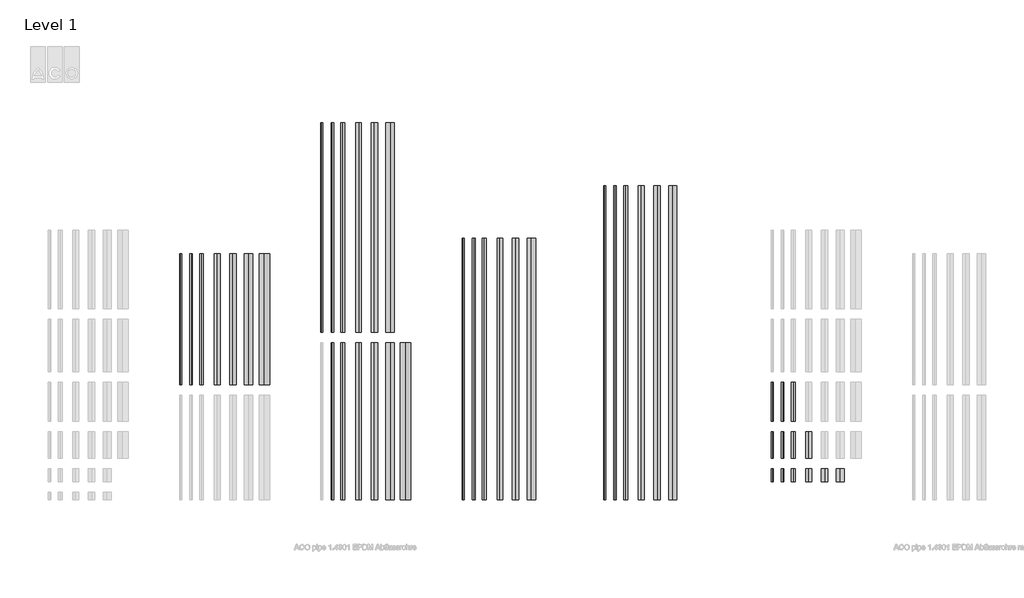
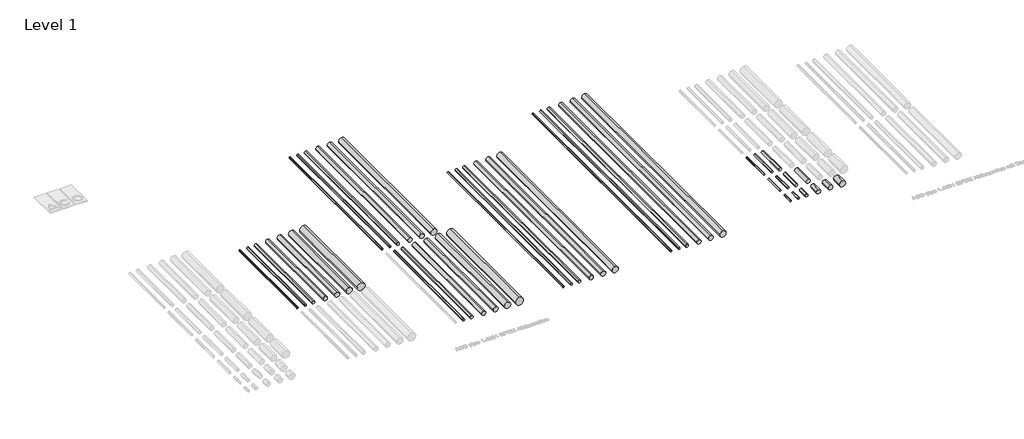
# One storey, part 7 of 13: 44 pipe segments.
"""IFC4 building model written with IfcOpenShell, lengths in millimetres."""

from ifc_helpers import new_model, si_unit, point, frame, frame_2d, origin, place, context, project, spatial, circle_curve, trimmed, segment, composite_curve, outline, extrude, element, save

model = new_model("IFC4")

# Units and contexts
model_context = context("Model", 3, world=origin())
ifc_project = project(units=[si_unit("LENGTHUNIT", "METRE", prefix="MILLI")], contexts=[model_context])

# Site, building, storey
site = spatial("IfcSite", under=ifc_project)
building = spatial("IfcBuilding", under=site)
storey = spatial("IfcBuildingStorey", under=building, Name="Level 1", Elevation=0.0)

# Pipe segments
placement = place(None, origin())
element("IfcPipeSegment", 1, ObjectType="ACO pipe 1.4301 OD (complex)", at=placement, inside=storey, context=model_context, shape_type="SweptSolid", body=[
    extrude(outline(composite_curve([segment(trimmed(circle_curve(frame_2d((0.0, 1021.7461061)), 20.0), [point((0.0, 1041.7461061))], [point((20.0, 1021.7461061))], False, "CARTESIAN"), True, "CONTINUOUS"), segment(trimmed(circle_curve(frame_2d((0.0, 1021.7461061)), 20.0), [point((20.0, 1021.7461061))], [point((0.0, 1001.7461061))], False, "CARTESIAN"), True, "CONTINUOUS"), segment(trimmed(circle_curve(frame_2d((0.0, 1021.7461061)), 20.0), [point((0.0, 1001.7461061))], [point((-20.0, 1021.7461061))], False, "CARTESIAN"), True, "CONTINUOUS"), segment(trimmed(circle_curve(frame_2d((0.0, 1021.7461061)), 20.0), [point((-20.0, 1021.7461061))], [point((0.0, 1041.7461061))], False, "CARTESIAN"), True, "CONTINUOUS")], self_intersect=False)), frame((0.0, 2180.7885647, 0.0), z_axis=(0.0, 1.0, 0.0), x_axis=(0.0, 0.0, 1.0)), (0.0, 0.0, 1.0), 2500.0),
])
element("IfcPipeSegment", 2, ObjectType="ACO pipe 1.4301 OD (complex)", at=placement, inside=storey, context=model_context, shape_type="SweptSolid", body=[
    extrude(outline(composite_curve([segment(trimmed(circle_curve(frame_2d((0.0, 1221.7461061)), 25.0), [point((0.0, 1246.7461061))], [point((25.0, 1221.7461061))], False, "CARTESIAN"), True, "CONTINUOUS"), segment(trimmed(circle_curve(frame_2d((0.0, 1221.7461061)), 25.0), [point((25.0, 1221.7461061))], [point((0.0, 1196.7461061))], False, "CARTESIAN"), True, "CONTINUOUS"), segment(trimmed(circle_curve(frame_2d((0.0, 1221.7461061)), 25.0), [point((0.0, 1196.7461061))], [point((-25.0, 1221.7461061))], False, "CARTESIAN"), True, "CONTINUOUS"), segment(trimmed(circle_curve(frame_2d((0.0, 1221.7461061)), 25.0), [point((-25.0, 1221.7461061))], [point((0.0, 1246.7461061))], False, "CARTESIAN"), True, "CONTINUOUS")], self_intersect=False)), frame((0.0, 2180.7885647, 0.0), z_axis=(0.0, 1.0, 0.0), x_axis=(0.0, 0.0, 1.0)), (0.0, 0.0, 1.0), 2500.0),
])
element("IfcPipeSegment", 3, ObjectType="ACO pipe 1.4301 OD (complex)", at=placement, inside=storey, context=model_context, shape_type="SweptSolid", body=[
    extrude(outline(composite_curve([segment(trimmed(circle_curve(frame_2d((0.0, 1421.7461061)), 37.5), [point((0.0, 1459.2461061))], [point((37.5, 1421.7461061))], False, "CARTESIAN"), True, "CONTINUOUS"), segment(trimmed(circle_curve(frame_2d((0.0, 1421.7461061)), 37.5), [point((37.5, 1421.7461061))], [point((0.0, 1384.2461061))], False, "CARTESIAN"), True, "CONTINUOUS"), segment(trimmed(circle_curve(frame_2d((0.0, 1421.7461061)), 37.5), [point((0.0, 1384.2461061))], [point((-37.5, 1421.7461061))], False, "CARTESIAN"), True, "CONTINUOUS"), segment(trimmed(circle_curve(frame_2d((0.0, 1421.7461061)), 37.5), [point((-37.5, 1421.7461061))], [point((0.0, 1459.2461061))], False, "CARTESIAN"), True, "CONTINUOUS")], self_intersect=False)), frame((0.0, 2180.7885647, 0.0), z_axis=(0.0, 1.0, 0.0), x_axis=(0.0, 0.0, 1.0)), (0.0, 0.0, 1.0), 2500.0),
])
element("IfcPipeSegment", 4, ObjectType="ACO pipe 1.4301 OD (complex)", at=placement, inside=storey, context=model_context, shape_type="SweptSolid", body=[
    extrude(outline(composite_curve([segment(trimmed(circle_curve(frame_2d((0.0, 1721.7461061)), 55.0), [point((0.0, 1776.7461061))], [point((55.0, 1721.7461061))], False, "CARTESIAN"), True, "CONTINUOUS"), segment(trimmed(circle_curve(frame_2d((0.0, 1721.7461061)), 55.0), [point((55.0, 1721.7461061))], [point((0.0, 1666.7461061))], False, "CARTESIAN"), True, "CONTINUOUS"), segment(trimmed(circle_curve(frame_2d((0.0, 1721.7461061)), 55.0), [point((0.0, 1666.7461061))], [point((-55.0, 1721.7461061))], False, "CARTESIAN"), True, "CONTINUOUS"), segment(trimmed(circle_curve(frame_2d((0.0, 1721.7461061)), 55.0), [point((-55.0, 1721.7461061))], [point((0.0, 1776.7461061))], False, "CARTESIAN"), True, "CONTINUOUS")], self_intersect=False)), frame((0.0, 2180.7885647, 0.0), z_axis=(0.0, 1.0, 0.0), x_axis=(0.0, 0.0, 1.0)), (0.0, 0.0, 1.0), 2500.0),
])
element("IfcPipeSegment", 5, ObjectType="ACO pipe 1.4301 OD (complex)", at=placement, inside=storey, context=model_context, shape_type="SweptSolid", body=[
    extrude(outline(composite_curve([segment(trimmed(circle_curve(frame_2d((0.0, 2021.7461061)), 62.5), [point((0.0, 2084.2461061))], [point((62.5, 2021.7461061))], False, "CARTESIAN"), True, "CONTINUOUS"), segment(trimmed(circle_curve(frame_2d((0.0, 2021.7461061)), 62.5), [point((62.5, 2021.7461061))], [point((0.0, 1959.2461061))], False, "CARTESIAN"), True, "CONTINUOUS"), segment(trimmed(circle_curve(frame_2d((0.0, 2021.7461061)), 62.5), [point((0.0, 1959.2461061))], [point((-62.5, 2021.7461061))], False, "CARTESIAN"), True, "CONTINUOUS"), segment(trimmed(circle_curve(frame_2d((0.0, 2021.7461061)), 62.5), [point((-62.5, 2021.7461061))], [point((0.0, 2084.2461061))], False, "CARTESIAN"), True, "CONTINUOUS")], self_intersect=False)), frame((0.0, 2180.7885647, 0.0), z_axis=(0.0, 1.0, 0.0), x_axis=(0.0, 0.0, 1.0)), (0.0, 0.0, 1.0), 2500.0),
])
element("IfcPipeSegment", 6, ObjectType="ACO pipe 1.4301 OD (complex)", at=placement, inside=storey, context=model_context, shape_type="SweptSolid", body=[
    extrude(outline(composite_curve([segment(trimmed(circle_curve(frame_2d((0.0, 2321.7461061)), 80.0), [point((0.0, 2401.7461061))], [point((80.0, 2321.7461061))], False, "CARTESIAN"), True, "CONTINUOUS"), segment(trimmed(circle_curve(frame_2d((0.0, 2321.7461061)), 80.0), [point((80.0, 2321.7461061))], [point((0.0, 2241.7461061))], False, "CARTESIAN"), True, "CONTINUOUS"), segment(trimmed(circle_curve(frame_2d((0.0, 2321.7461061)), 80.0), [point((0.0, 2241.7461061))], [point((-80.0, 2321.7461061))], False, "CARTESIAN"), True, "CONTINUOUS"), segment(trimmed(circle_curve(frame_2d((0.0, 2321.7461061)), 80.0), [point((-80.0, 2321.7461061))], [point((0.0, 2401.7461061))], False, "CARTESIAN"), True, "CONTINUOUS")], self_intersect=False)), frame((0.0, 2180.7885647, 0.0), z_axis=(0.0, 1.0, 0.0), x_axis=(0.0, 0.0, 1.0)), (0.0, 0.0, 1.0), 2500.0),
])
element("IfcPipeSegment", 7, ObjectType="ACO pipe 1.4301 OD (complex)", at=placement, inside=storey, context=model_context, shape_type="SweptSolid", body=[
    extrude(outline(composite_curve([segment(trimmed(circle_curve(frame_2d((0.0, 2621.7461061)), 100.0), [point((0.0, 2721.7461061))], [point((100.0, 2621.7461061))], False, "CARTESIAN"), True, "CONTINUOUS"), segment(trimmed(circle_curve(frame_2d((0.0, 2621.7461061)), 100.0), [point((100.0, 2621.7461061))], [point((0.0, 2521.7461061))], False, "CARTESIAN"), True, "CONTINUOUS"), segment(trimmed(circle_curve(frame_2d((0.0, 2621.7461061)), 100.0), [point((0.0, 2521.7461061))], [point((-100.0, 2621.7461061))], False, "CARTESIAN"), True, "CONTINUOUS"), segment(trimmed(circle_curve(frame_2d((0.0, 2621.7461061)), 100.0), [point((-100.0, 2621.7461061))], [point((0.0, 2721.7461061))], False, "CARTESIAN"), True, "CONTINUOUS")], self_intersect=False)), frame((0.0, 2180.7885647, 0.0), z_axis=(0.0, 1.0, 0.0), x_axis=(0.0, 0.0, 1.0)), (0.0, 0.0, 1.0), 2500.0),
])
element("IfcPipeSegment", 8, ObjectType="ACO pipe 1.4301 OD (complex)", at=placement, inside=storey, context=model_context, shape_type="SweptSolid", body=[
    extrude(outline(composite_curve([segment(trimmed(circle_curve(frame_2d((0.0, 3921.7461061)), 25.0), [point((0.0, 3946.7461061))], [point((25.0, 3921.7461061))], False, "CARTESIAN"), True, "CONTINUOUS"), segment(trimmed(circle_curve(frame_2d((0.0, 3921.7461061)), 25.0), [point((25.0, 3921.7461061))], [point((0.0, 3896.7461061))], False, "CARTESIAN"), True, "CONTINUOUS"), segment(trimmed(circle_curve(frame_2d((0.0, 3921.7461061)), 25.0), [point((0.0, 3896.7461061))], [point((-25.0, 3921.7461061))], False, "CARTESIAN"), True, "CONTINUOUS"), segment(trimmed(circle_curve(frame_2d((0.0, 3921.7461061)), 25.0), [point((-25.0, 3921.7461061))], [point((0.0, 3946.7461061))], False, "CARTESIAN"), True, "CONTINUOUS")], self_intersect=False)), frame((0.0, -19.2114353, 0.0), z_axis=(0.0, 1.0, 0.0), x_axis=(0.0, 0.0, 1.0)), (0.0, 0.0, 1.0), 3000.0),
])
element("IfcPipeSegment", 9, ObjectType="ACO pipe 1.4301 OD (complex)", at=placement, inside=storey, context=model_context, shape_type="SweptSolid", body=[
    extrude(outline(composite_curve([segment(trimmed(circle_curve(frame_2d((0.0, 4121.7461061)), 37.5), [point((0.0, 4159.2461061))], [point((37.5, 4121.7461061))], False, "CARTESIAN"), True, "CONTINUOUS"), segment(trimmed(circle_curve(frame_2d((0.0, 4121.7461061)), 37.5), [point((37.5, 4121.7461061))], [point((0.0, 4084.2461061))], False, "CARTESIAN"), True, "CONTINUOUS"), segment(trimmed(circle_curve(frame_2d((0.0, 4121.7461061)), 37.5), [point((0.0, 4084.2461061))], [point((-37.5, 4121.7461061))], False, "CARTESIAN"), True, "CONTINUOUS"), segment(trimmed(circle_curve(frame_2d((0.0, 4121.7461061)), 37.5), [point((-37.5, 4121.7461061))], [point((0.0, 4159.2461061))], False, "CARTESIAN"), True, "CONTINUOUS")], self_intersect=False)), frame((0.0, -19.2114353, 0.0), z_axis=(0.0, 1.0, 0.0), x_axis=(0.0, 0.0, 1.0)), (0.0, 0.0, 1.0), 3000.0),
])
element("IfcPipeSegment", 10, ObjectType="ACO pipe 1.4301 OD (complex)", at=placement, inside=storey, context=model_context, shape_type="SweptSolid", body=[
    extrude(outline(composite_curve([segment(trimmed(circle_curve(frame_2d((0.0, 4421.7461061)), 55.0), [point((0.0, 4476.7461061))], [point((55.0, 4421.7461061))], False, "CARTESIAN"), True, "CONTINUOUS"), segment(trimmed(circle_curve(frame_2d((0.0, 4421.7461061)), 55.0), [point((55.0, 4421.7461061))], [point((0.0, 4366.7461061))], False, "CARTESIAN"), True, "CONTINUOUS"), segment(trimmed(circle_curve(frame_2d((0.0, 4421.7461061)), 55.0), [point((0.0, 4366.7461061))], [point((-55.0, 4421.7461061))], False, "CARTESIAN"), True, "CONTINUOUS"), segment(trimmed(circle_curve(frame_2d((0.0, 4421.7461061)), 55.0), [point((-55.0, 4421.7461061))], [point((0.0, 4476.7461061))], False, "CARTESIAN"), True, "CONTINUOUS")], self_intersect=False)), frame((0.0, -19.2114353, 0.0), z_axis=(0.0, 1.0, 0.0), x_axis=(0.0, 0.0, 1.0)), (0.0, 0.0, 1.0), 3000.0),
])
element("IfcPipeSegment", 11, ObjectType="ACO pipe 1.4301 OD (complex)", at=placement, inside=storey, context=model_context, shape_type="SweptSolid", body=[
    extrude(outline(composite_curve([segment(trimmed(circle_curve(frame_2d((0.0, 4721.7461061)), 62.5), [point((0.0, 4784.2461061))], [point((62.5, 4721.7461061))], False, "CARTESIAN"), True, "CONTINUOUS"), segment(trimmed(circle_curve(frame_2d((0.0, 4721.7461061)), 62.5), [point((62.5, 4721.7461061))], [point((0.0, 4659.2461061))], False, "CARTESIAN"), True, "CONTINUOUS"), segment(trimmed(circle_curve(frame_2d((0.0, 4721.7461061)), 62.5), [point((0.0, 4659.2461061))], [point((-62.5, 4721.7461061))], False, "CARTESIAN"), True, "CONTINUOUS"), segment(trimmed(circle_curve(frame_2d((0.0, 4721.7461061)), 62.5), [point((-62.5, 4721.7461061))], [point((0.0, 4784.2461061))], False, "CARTESIAN"), True, "CONTINUOUS")], self_intersect=False)), frame((0.0, -19.2114353, 0.0), z_axis=(0.0, 1.0, 0.0), x_axis=(0.0, 0.0, 1.0)), (0.0, 0.0, 1.0), 3000.0),
])
element("IfcPipeSegment", 12, ObjectType="ACO pipe 1.4301 OD (complex)", at=placement, inside=storey, context=model_context, shape_type="SweptSolid", body=[
    extrude(outline(composite_curve([segment(trimmed(circle_curve(frame_2d((0.0, 5021.7461061)), 80.0), [point((0.0, 5101.7461061))], [point((80.0, 5021.7461061))], False, "CARTESIAN"), True, "CONTINUOUS"), segment(trimmed(circle_curve(frame_2d((0.0, 5021.7461061)), 80.0), [point((80.0, 5021.7461061))], [point((0.0, 4941.7461061))], False, "CARTESIAN"), True, "CONTINUOUS"), segment(trimmed(circle_curve(frame_2d((0.0, 5021.7461061)), 80.0), [point((0.0, 4941.7461061))], [point((-80.0, 5021.7461061))], False, "CARTESIAN"), True, "CONTINUOUS"), segment(trimmed(circle_curve(frame_2d((0.0, 5021.7461061)), 80.0), [point((-80.0, 5021.7461061))], [point((0.0, 5101.7461061))], False, "CARTESIAN"), True, "CONTINUOUS")], self_intersect=False)), frame((0.0, -19.2114353, 0.0), z_axis=(0.0, 1.0, 0.0), x_axis=(0.0, 0.0, 1.0)), (0.0, 0.0, 1.0), 3000.0),
])
element("IfcPipeSegment", 13, ObjectType="ACO pipe 1.4301 OD (complex)", at=placement, inside=storey, context=model_context, shape_type="SweptSolid", body=[
    extrude(outline(composite_curve([segment(trimmed(circle_curve(frame_2d((0.0, 5321.7461061)), 100.0), [point((0.0, 5421.7461061))], [point((100.0, 5321.7461061))], False, "CARTESIAN"), True, "CONTINUOUS"), segment(trimmed(circle_curve(frame_2d((0.0, 5321.7461061)), 100.0), [point((100.0, 5321.7461061))], [point((0.0, 5221.7461061))], False, "CARTESIAN"), True, "CONTINUOUS"), segment(trimmed(circle_curve(frame_2d((0.0, 5321.7461061)), 100.0), [point((0.0, 5221.7461061))], [point((-100.0, 5321.7461061))], False, "CARTESIAN"), True, "CONTINUOUS"), segment(trimmed(circle_curve(frame_2d((0.0, 5321.7461061)), 100.0), [point((-100.0, 5321.7461061))], [point((0.0, 5421.7461061))], False, "CARTESIAN"), True, "CONTINUOUS")], self_intersect=False)), frame((0.0, -19.2114353, 0.0), z_axis=(0.0, 1.0, 0.0), x_axis=(0.0, 0.0, 1.0)), (0.0, 0.0, 1.0), 3000.0),
])
element("IfcPipeSegment", 14, ObjectType="ACO pipe 1.4301 OD (complex)", at=placement, inside=storey, context=model_context, shape_type="SweptSolid", body=[
    extrude(outline(composite_curve([segment(trimmed(circle_curve(frame_2d((0.0, 3721.7461061)), 20.0), [point((0.0, 3741.7461061))], [point((20.0, 3721.7461061))], False, "CARTESIAN"), True, "CONTINUOUS"), segment(trimmed(circle_curve(frame_2d((0.0, 3721.7461061)), 20.0), [point((20.0, 3721.7461061))], [point((0.0, 3701.7461061))], False, "CARTESIAN"), True, "CONTINUOUS"), segment(trimmed(circle_curve(frame_2d((0.0, 3721.7461061)), 20.0), [point((0.0, 3701.7461061))], [point((-20.0, 3721.7461061))], False, "CARTESIAN"), True, "CONTINUOUS"), segment(trimmed(circle_curve(frame_2d((0.0, 3721.7461061)), 20.0), [point((-20.0, 3721.7461061))], [point((0.0, 3741.7461061))], False, "CARTESIAN"), True, "CONTINUOUS")], self_intersect=False)), frame((0.0, 3180.7885647, 0.0), z_axis=(0.0, 1.0, 0.0), x_axis=(0.0, 0.0, 1.0)), (0.0, 0.0, 1.0), 4000.0),
])
element("IfcPipeSegment", 15, ObjectType="ACO pipe 1.4301 OD (complex)", at=placement, inside=storey, context=model_context, shape_type="SweptSolid", body=[
    extrude(outline(composite_curve([segment(trimmed(circle_curve(frame_2d((0.0, 3921.7461061)), 25.0), [point((0.0, 3946.7461061))], [point((25.0, 3921.7461061))], False, "CARTESIAN"), True, "CONTINUOUS"), segment(trimmed(circle_curve(frame_2d((0.0, 3921.7461061)), 25.0), [point((25.0, 3921.7461061))], [point((0.0, 3896.7461061))], False, "CARTESIAN"), True, "CONTINUOUS"), segment(trimmed(circle_curve(frame_2d((0.0, 3921.7461061)), 25.0), [point((0.0, 3896.7461061))], [point((-25.0, 3921.7461061))], False, "CARTESIAN"), True, "CONTINUOUS"), segment(trimmed(circle_curve(frame_2d((0.0, 3921.7461061)), 25.0), [point((-25.0, 3921.7461061))], [point((0.0, 3946.7461061))], False, "CARTESIAN"), True, "CONTINUOUS")], self_intersect=False)), frame((0.0, 3180.7885647, 0.0), z_axis=(0.0, 1.0, 0.0), x_axis=(0.0, 0.0, 1.0)), (0.0, 0.0, 1.0), 4000.0),
])
element("IfcPipeSegment", 16, ObjectType="ACO pipe 1.4301 OD (complex)", at=placement, inside=storey, context=model_context, shape_type="SweptSolid", body=[
    extrude(outline(composite_curve([segment(trimmed(circle_curve(frame_2d((0.0, 4121.7461061)), 37.5), [point((0.0, 4159.2461061))], [point((37.5, 4121.7461061))], False, "CARTESIAN"), True, "CONTINUOUS"), segment(trimmed(circle_curve(frame_2d((0.0, 4121.7461061)), 37.5), [point((37.5, 4121.7461061))], [point((0.0, 4084.2461061))], False, "CARTESIAN"), True, "CONTINUOUS"), segment(trimmed(circle_curve(frame_2d((0.0, 4121.7461061)), 37.5), [point((0.0, 4084.2461061))], [point((-37.5, 4121.7461061))], False, "CARTESIAN"), True, "CONTINUOUS"), segment(trimmed(circle_curve(frame_2d((0.0, 4121.7461061)), 37.5), [point((-37.5, 4121.7461061))], [point((0.0, 4159.2461061))], False, "CARTESIAN"), True, "CONTINUOUS")], self_intersect=False)), frame((0.0, 3180.7885647, 0.0), z_axis=(0.0, 1.0, 0.0), x_axis=(0.0, 0.0, 1.0)), (0.0, 0.0, 1.0), 4000.0),
])
element("IfcPipeSegment", 17, ObjectType="ACO pipe 1.4301 OD (complex)", at=placement, inside=storey, context=model_context, shape_type="SweptSolid", body=[
    extrude(outline(composite_curve([segment(trimmed(circle_curve(frame_2d((0.0, 4421.7461061)), 55.0), [point((0.0, 4476.7461061))], [point((55.0, 4421.7461061))], False, "CARTESIAN"), True, "CONTINUOUS"), segment(trimmed(circle_curve(frame_2d((0.0, 4421.7461061)), 55.0), [point((55.0, 4421.7461061))], [point((0.0, 4366.7461061))], False, "CARTESIAN"), True, "CONTINUOUS"), segment(trimmed(circle_curve(frame_2d((0.0, 4421.7461061)), 55.0), [point((0.0, 4366.7461061))], [point((-55.0, 4421.7461061))], False, "CARTESIAN"), True, "CONTINUOUS"), segment(trimmed(circle_curve(frame_2d((0.0, 4421.7461061)), 55.0), [point((-55.0, 4421.7461061))], [point((0.0, 4476.7461061))], False, "CARTESIAN"), True, "CONTINUOUS")], self_intersect=False)), frame((0.0, 3180.7885647, 0.0), z_axis=(0.0, 1.0, 0.0), x_axis=(0.0, 0.0, 1.0)), (0.0, 0.0, 1.0), 4000.0),
])
element("IfcPipeSegment", 18, ObjectType="ACO pipe 1.4301 OD (complex)", at=placement, inside=storey, context=model_context, shape_type="SweptSolid", body=[
    extrude(outline(composite_curve([segment(trimmed(circle_curve(frame_2d((0.0, 4721.7461061)), 62.5), [point((0.0, 4784.2461061))], [point((62.5, 4721.7461061))], False, "CARTESIAN"), True, "CONTINUOUS"), segment(trimmed(circle_curve(frame_2d((0.0, 4721.7461061)), 62.5), [point((62.5, 4721.7461061))], [point((0.0, 4659.2461061))], False, "CARTESIAN"), True, "CONTINUOUS"), segment(trimmed(circle_curve(frame_2d((0.0, 4721.7461061)), 62.5), [point((0.0, 4659.2461061))], [point((-62.5, 4721.7461061))], False, "CARTESIAN"), True, "CONTINUOUS"), segment(trimmed(circle_curve(frame_2d((0.0, 4721.7461061)), 62.5), [point((-62.5, 4721.7461061))], [point((0.0, 4784.2461061))], False, "CARTESIAN"), True, "CONTINUOUS")], self_intersect=False)), frame((0.0, 3180.7885647, 0.0), z_axis=(0.0, 1.0, 0.0), x_axis=(0.0, 0.0, 1.0)), (0.0, 0.0, 1.0), 4000.0),
])
element("IfcPipeSegment", 19, ObjectType="ACO pipe 1.4301 OD (complex)", at=placement, inside=storey, context=model_context, shape_type="SweptSolid", body=[
    extrude(outline(composite_curve([segment(trimmed(circle_curve(frame_2d((0.0, 5021.7461061)), 80.0), [point((0.0, 5101.7461061))], [point((80.0, 5021.7461061))], False, "CARTESIAN"), True, "CONTINUOUS"), segment(trimmed(circle_curve(frame_2d((0.0, 5021.7461061)), 80.0), [point((80.0, 5021.7461061))], [point((0.0, 4941.7461061))], False, "CARTESIAN"), True, "CONTINUOUS"), segment(trimmed(circle_curve(frame_2d((0.0, 5021.7461061)), 80.0), [point((0.0, 4941.7461061))], [point((-80.0, 5021.7461061))], False, "CARTESIAN"), True, "CONTINUOUS"), segment(trimmed(circle_curve(frame_2d((0.0, 5021.7461061)), 80.0), [point((-80.0, 5021.7461061))], [point((0.0, 5101.7461061))], False, "CARTESIAN"), True, "CONTINUOUS")], self_intersect=False)), frame((0.0, 3180.7885647, 0.0), z_axis=(0.0, 1.0, 0.0), x_axis=(0.0, 0.0, 1.0)), (0.0, 0.0, 1.0), 4000.0),
])
element("IfcPipeSegment", 20, ObjectType="ACO pipe 1.4301 OD (complex)", at=placement, inside=storey, context=model_context, shape_type="SweptSolid", body=[
    extrude(outline(composite_curve([segment(trimmed(circle_curve(frame_2d((0.0, 6421.7461061)), 20.0), [point((0.0, 6441.7461061))], [point((20.0, 6421.7461061))], False, "CARTESIAN"), True, "CONTINUOUS"), segment(trimmed(circle_curve(frame_2d((0.0, 6421.7461061)), 20.0), [point((20.0, 6421.7461061))], [point((0.0, 6401.7461061))], False, "CARTESIAN"), True, "CONTINUOUS"), segment(trimmed(circle_curve(frame_2d((0.0, 6421.7461061)), 20.0), [point((0.0, 6401.7461061))], [point((-20.0, 6421.7461061))], False, "CARTESIAN"), True, "CONTINUOUS"), segment(trimmed(circle_curve(frame_2d((0.0, 6421.7461061)), 20.0), [point((-20.0, 6421.7461061))], [point((0.0, 6441.7461061))], False, "CARTESIAN"), True, "CONTINUOUS")], self_intersect=False)), frame((0.0, -19.2114353, 0.0), z_axis=(0.0, 1.0, 0.0), x_axis=(0.0, 0.0, 1.0)), (0.0, 0.0, 1.0), 5000.0),
])
element("IfcPipeSegment", 21, ObjectType="ACO pipe 1.4301 OD (complex)", at=placement, inside=storey, context=model_context, shape_type="SweptSolid", body=[
    extrude(outline(composite_curve([segment(trimmed(circle_curve(frame_2d((0.0, 6621.7461061)), 25.0), [point((0.0, 6646.7461061))], [point((25.0, 6621.7461061))], False, "CARTESIAN"), True, "CONTINUOUS"), segment(trimmed(circle_curve(frame_2d((0.0, 6621.7461061)), 25.0), [point((25.0, 6621.7461061))], [point((0.0, 6596.7461061))], False, "CARTESIAN"), True, "CONTINUOUS"), segment(trimmed(circle_curve(frame_2d((0.0, 6621.7461061)), 25.0), [point((0.0, 6596.7461061))], [point((-25.0, 6621.7461061))], False, "CARTESIAN"), True, "CONTINUOUS"), segment(trimmed(circle_curve(frame_2d((0.0, 6621.7461061)), 25.0), [point((-25.0, 6621.7461061))], [point((0.0, 6646.7461061))], False, "CARTESIAN"), True, "CONTINUOUS")], self_intersect=False)), frame((0.0, -19.2114353, 0.0), z_axis=(0.0, 1.0, 0.0), x_axis=(0.0, 0.0, 1.0)), (0.0, 0.0, 1.0), 5000.0),
])
element("IfcPipeSegment", 22, ObjectType="ACO pipe 1.4301 OD (complex)", at=placement, inside=storey, context=model_context, shape_type="SweptSolid", body=[
    extrude(outline(composite_curve([segment(trimmed(circle_curve(frame_2d((0.0, 6821.7461061)), 37.5), [point((0.0, 6859.2461061))], [point((37.5, 6821.7461061))], False, "CARTESIAN"), True, "CONTINUOUS"), segment(trimmed(circle_curve(frame_2d((0.0, 6821.7461061)), 37.5), [point((37.5, 6821.7461061))], [point((0.0, 6784.2461061))], False, "CARTESIAN"), True, "CONTINUOUS"), segment(trimmed(circle_curve(frame_2d((0.0, 6821.7461061)), 37.5), [point((0.0, 6784.2461061))], [point((-37.5, 6821.7461061))], False, "CARTESIAN"), True, "CONTINUOUS"), segment(trimmed(circle_curve(frame_2d((0.0, 6821.7461061)), 37.5), [point((-37.5, 6821.7461061))], [point((0.0, 6859.2461061))], False, "CARTESIAN"), True, "CONTINUOUS")], self_intersect=False)), frame((0.0, -19.2114353, 0.0), z_axis=(0.0, 1.0, 0.0), x_axis=(0.0, 0.0, 1.0)), (0.0, 0.0, 1.0), 5000.0),
])
element("IfcPipeSegment", 23, ObjectType="ACO pipe 1.4301 OD (complex)", at=placement, inside=storey, context=model_context, shape_type="SweptSolid", body=[
    extrude(outline(composite_curve([segment(trimmed(circle_curve(frame_2d((0.0, 7121.7461061)), 55.0), [point((0.0, 7176.7461061))], [point((55.0, 7121.7461061))], False, "CARTESIAN"), True, "CONTINUOUS"), segment(trimmed(circle_curve(frame_2d((0.0, 7121.7461061)), 55.0), [point((55.0, 7121.7461061))], [point((0.0, 7066.7461061))], False, "CARTESIAN"), True, "CONTINUOUS"), segment(trimmed(circle_curve(frame_2d((0.0, 7121.7461061)), 55.0), [point((0.0, 7066.7461061))], [point((-55.0, 7121.7461061))], False, "CARTESIAN"), True, "CONTINUOUS"), segment(trimmed(circle_curve(frame_2d((0.0, 7121.7461061)), 55.0), [point((-55.0, 7121.7461061))], [point((0.0, 7176.7461061))], False, "CARTESIAN"), True, "CONTINUOUS")], self_intersect=False)), frame((0.0, -19.2114353, 0.0), z_axis=(0.0, 1.0, 0.0), x_axis=(0.0, 0.0, 1.0)), (0.0, 0.0, 1.0), 5000.0),
])
element("IfcPipeSegment", 24, ObjectType="ACO pipe 1.4301 OD (complex)", at=placement, inside=storey, context=model_context, shape_type="SweptSolid", body=[
    extrude(outline(composite_curve([segment(trimmed(circle_curve(frame_2d((0.0, 7421.7461061)), 62.5), [point((0.0, 7484.2461061))], [point((62.5, 7421.7461061))], False, "CARTESIAN"), True, "CONTINUOUS"), segment(trimmed(circle_curve(frame_2d((0.0, 7421.7461061)), 62.5), [point((62.5, 7421.7461061))], [point((0.0, 7359.2461061))], False, "CARTESIAN"), True, "CONTINUOUS"), segment(trimmed(circle_curve(frame_2d((0.0, 7421.7461061)), 62.5), [point((0.0, 7359.2461061))], [point((-62.5, 7421.7461061))], False, "CARTESIAN"), True, "CONTINUOUS"), segment(trimmed(circle_curve(frame_2d((0.0, 7421.7461061)), 62.5), [point((-62.5, 7421.7461061))], [point((0.0, 7484.2461061))], False, "CARTESIAN"), True, "CONTINUOUS")], self_intersect=False)), frame((0.0, -19.2114353, 0.0), z_axis=(0.0, 1.0, 0.0), x_axis=(0.0, 0.0, 1.0)), (0.0, 0.0, 1.0), 5000.0),
])
element("IfcPipeSegment", 25, ObjectType="ACO pipe 1.4301 OD (complex)", at=placement, inside=storey, context=model_context, shape_type="SweptSolid", body=[
    extrude(outline(composite_curve([segment(trimmed(circle_curve(frame_2d((0.0, 7721.7461061)), 80.0), [point((0.0, 7801.7461061))], [point((80.0, 7721.7461061))], False, "CARTESIAN"), True, "CONTINUOUS"), segment(trimmed(circle_curve(frame_2d((0.0, 7721.7461061)), 80.0), [point((80.0, 7721.7461061))], [point((0.0, 7641.7461061))], False, "CARTESIAN"), True, "CONTINUOUS"), segment(trimmed(circle_curve(frame_2d((0.0, 7721.7461061)), 80.0), [point((0.0, 7641.7461061))], [point((-80.0, 7721.7461061))], False, "CARTESIAN"), True, "CONTINUOUS"), segment(trimmed(circle_curve(frame_2d((0.0, 7721.7461061)), 80.0), [point((-80.0, 7721.7461061))], [point((0.0, 7801.7461061))], False, "CARTESIAN"), True, "CONTINUOUS")], self_intersect=False)), frame((0.0, -19.2114353, 0.0), z_axis=(0.0, 1.0, 0.0), x_axis=(0.0, 0.0, 1.0)), (0.0, 0.0, 1.0), 5000.0),
])
element("IfcPipeSegment", 26, ObjectType="ACO pipe 1.4301 OD (complex)", at=placement, inside=storey, context=model_context, shape_type="SweptSolid", body=[
    extrude(outline(composite_curve([segment(trimmed(circle_curve(frame_2d((0.0, 9121.7461061)), 20.0), [point((0.0, 9141.7461061))], [point((20.0, 9121.7461061))], False, "CARTESIAN"), True, "CONTINUOUS"), segment(trimmed(circle_curve(frame_2d((0.0, 9121.7461061)), 20.0), [point((20.0, 9121.7461061))], [point((0.0, 9101.7461061))], False, "CARTESIAN"), True, "CONTINUOUS"), segment(trimmed(circle_curve(frame_2d((0.0, 9121.7461061)), 20.0), [point((0.0, 9101.7461061))], [point((-20.0, 9121.7461061))], False, "CARTESIAN"), True, "CONTINUOUS"), segment(trimmed(circle_curve(frame_2d((0.0, 9121.7461061)), 20.0), [point((-20.0, 9121.7461061))], [point((0.0, 9141.7461061))], False, "CARTESIAN"), True, "CONTINUOUS")], self_intersect=False)), frame((0.0, -19.2114353, 0.0), z_axis=(0.0, 1.0, 0.0), x_axis=(0.0, 0.0, 1.0)), (0.0, 0.0, 1.0), 6000.0),
])
element("IfcPipeSegment", 27, ObjectType="ACO pipe 1.4301 OD (complex)", at=placement, inside=storey, context=model_context, shape_type="SweptSolid", body=[
    extrude(outline(composite_curve([segment(trimmed(circle_curve(frame_2d((0.0, 9321.7461061)), 25.0), [point((0.0, 9346.7461061))], [point((25.0, 9321.7461061))], False, "CARTESIAN"), True, "CONTINUOUS"), segment(trimmed(circle_curve(frame_2d((0.0, 9321.7461061)), 25.0), [point((25.0, 9321.7461061))], [point((0.0, 9296.7461061))], False, "CARTESIAN"), True, "CONTINUOUS"), segment(trimmed(circle_curve(frame_2d((0.0, 9321.7461061)), 25.0), [point((0.0, 9296.7461061))], [point((-25.0, 9321.7461061))], False, "CARTESIAN"), True, "CONTINUOUS"), segment(trimmed(circle_curve(frame_2d((0.0, 9321.7461061)), 25.0), [point((-25.0, 9321.7461061))], [point((0.0, 9346.7461061))], False, "CARTESIAN"), True, "CONTINUOUS")], self_intersect=False)), frame((0.0, -19.2114353, 0.0), z_axis=(0.0, 1.0, 0.0), x_axis=(0.0, 0.0, 1.0)), (0.0, 0.0, 1.0), 6000.0),
])
element("IfcPipeSegment", 28, ObjectType="ACO pipe 1.4301 OD (complex)", at=placement, inside=storey, context=model_context, shape_type="SweptSolid", body=[
    extrude(outline(composite_curve([segment(trimmed(circle_curve(frame_2d((0.0, 9521.7461061)), 37.5), [point((0.0, 9559.2461061))], [point((37.5, 9521.7461061))], False, "CARTESIAN"), True, "CONTINUOUS"), segment(trimmed(circle_curve(frame_2d((0.0, 9521.7461061)), 37.5), [point((37.5, 9521.7461061))], [point((0.0, 9484.2461061))], False, "CARTESIAN"), True, "CONTINUOUS"), segment(trimmed(circle_curve(frame_2d((0.0, 9521.7461061)), 37.5), [point((0.0, 9484.2461061))], [point((-37.5, 9521.7461061))], False, "CARTESIAN"), True, "CONTINUOUS"), segment(trimmed(circle_curve(frame_2d((0.0, 9521.7461061)), 37.5), [point((-37.5, 9521.7461061))], [point((0.0, 9559.2461061))], False, "CARTESIAN"), True, "CONTINUOUS")], self_intersect=False)), frame((0.0, -19.2114353, 0.0), z_axis=(0.0, 1.0, 0.0), x_axis=(0.0, 0.0, 1.0)), (0.0, 0.0, 1.0), 6000.0),
])
element("IfcPipeSegment", 29, ObjectType="ACO pipe 1.4301 OD (complex)", at=placement, inside=storey, context=model_context, shape_type="SweptSolid", body=[
    extrude(outline(composite_curve([segment(trimmed(circle_curve(frame_2d((0.0, 9821.7461061)), 55.0), [point((0.0, 9876.7461061))], [point((55.0, 9821.7461061))], False, "CARTESIAN"), True, "CONTINUOUS"), segment(trimmed(circle_curve(frame_2d((0.0, 9821.7461061)), 55.0), [point((55.0, 9821.7461061))], [point((0.0, 9766.7461061))], False, "CARTESIAN"), True, "CONTINUOUS"), segment(trimmed(circle_curve(frame_2d((0.0, 9821.7461061)), 55.0), [point((0.0, 9766.7461061))], [point((-55.0, 9821.7461061))], False, "CARTESIAN"), True, "CONTINUOUS"), segment(trimmed(circle_curve(frame_2d((0.0, 9821.7461061)), 55.0), [point((-55.0, 9821.7461061))], [point((0.0, 9876.7461061))], False, "CARTESIAN"), True, "CONTINUOUS")], self_intersect=False)), frame((0.0, -19.2114353, 0.0), z_axis=(0.0, 1.0, 0.0), x_axis=(0.0, 0.0, 1.0)), (0.0, 0.0, 1.0), 6000.0),
])
element("IfcPipeSegment", 30, ObjectType="ACO pipe 1.4301 OD (complex)", at=placement, inside=storey, context=model_context, shape_type="SweptSolid", body=[
    extrude(outline(composite_curve([segment(trimmed(circle_curve(frame_2d((0.0, 10121.7461061)), 62.5), [point((0.0, 10184.2461061))], [point((62.5, 10121.7461061))], False, "CARTESIAN"), True, "CONTINUOUS"), segment(trimmed(circle_curve(frame_2d((0.0, 10121.7461061)), 62.5), [point((62.5, 10121.7461061))], [point((0.0, 10059.2461061))], False, "CARTESIAN"), True, "CONTINUOUS"), segment(trimmed(circle_curve(frame_2d((0.0, 10121.7461061)), 62.5), [point((0.0, 10059.2461061))], [point((-62.5, 10121.7461061))], False, "CARTESIAN"), True, "CONTINUOUS"), segment(trimmed(circle_curve(frame_2d((0.0, 10121.7461061)), 62.5), [point((-62.5, 10121.7461061))], [point((0.0, 10184.2461061))], False, "CARTESIAN"), True, "CONTINUOUS")], self_intersect=False)), frame((0.0, -19.2114353, 0.0), z_axis=(0.0, 1.0, 0.0), x_axis=(0.0, 0.0, 1.0)), (0.0, 0.0, 1.0), 6000.0),
])
element("IfcPipeSegment", 31, ObjectType="ACO pipe 1.4301 OD (complex)", at=placement, inside=storey, context=model_context, shape_type="SweptSolid", body=[
    extrude(outline(composite_curve([segment(trimmed(circle_curve(frame_2d((0.0, 10421.7461061)), 80.0), [point((0.0, 10501.7461061))], [point((80.0, 10421.7461061))], False, "CARTESIAN"), True, "CONTINUOUS"), segment(trimmed(circle_curve(frame_2d((0.0, 10421.7461061)), 80.0), [point((80.0, 10421.7461061))], [point((0.0, 10341.7461061))], False, "CARTESIAN"), True, "CONTINUOUS"), segment(trimmed(circle_curve(frame_2d((0.0, 10421.7461061)), 80.0), [point((0.0, 10341.7461061))], [point((-80.0, 10421.7461061))], False, "CARTESIAN"), True, "CONTINUOUS"), segment(trimmed(circle_curve(frame_2d((0.0, 10421.7461061)), 80.0), [point((-80.0, 10421.7461061))], [point((0.0, 10501.7461061))], False, "CARTESIAN"), True, "CONTINUOUS")], self_intersect=False)), frame((0.0, -19.2114353, 0.0), z_axis=(0.0, 1.0, 0.0), x_axis=(0.0, 0.0, 1.0)), (0.0, 0.0, 1.0), 6000.0),
])
element("IfcPipeSegment", 32, ObjectType="ACO pipe 1.4301 OD (complex)", at=placement, inside=storey, context=model_context, shape_type="SweptSolid", body=[
    extrude(outline(composite_curve([segment(trimmed(circle_curve(frame_2d((0.0, 12321.7461061)), 20.0), [point((0.0, 12341.7461061))], [point((20.0, 12321.7461061))], False, "CARTESIAN"), True, "CONTINUOUS"), segment(trimmed(circle_curve(frame_2d((0.0, 12321.7461061)), 20.0), [point((20.0, 12321.7461061))], [point((0.0, 12301.7461061))], False, "CARTESIAN"), True, "CONTINUOUS"), segment(trimmed(circle_curve(frame_2d((0.0, 12321.7461061)), 20.0), [point((0.0, 12301.7461061))], [point((-20.0, 12321.7461061))], False, "CARTESIAN"), True, "CONTINUOUS"), segment(trimmed(circle_curve(frame_2d((0.0, 12321.7461061)), 20.0), [point((-20.0, 12321.7461061))], [point((0.0, 12341.7461061))], False, "CARTESIAN"), True, "CONTINUOUS")], self_intersect=False)), frame((0.0, 330.7885647, 0.0), z_axis=(0.0, 1.0, 0.0), x_axis=(0.0, 0.0, 1.0)), (0.0, 0.0, 1.0), 250.0),
])
element("IfcPipeSegment", 33, ObjectType="ACO pipe 1.4301 OD (complex)", at=placement, inside=storey, context=model_context, shape_type="SweptSolid", body=[
    extrude(outline(composite_curve([segment(trimmed(circle_curve(frame_2d((0.0, 12521.7461061)), 25.0), [point((0.0, 12546.7461061))], [point((25.0, 12521.7461061))], False, "CARTESIAN"), True, "CONTINUOUS"), segment(trimmed(circle_curve(frame_2d((0.0, 12521.7461061)), 25.0), [point((25.0, 12521.7461061))], [point((0.0, 12496.7461061))], False, "CARTESIAN"), True, "CONTINUOUS"), segment(trimmed(circle_curve(frame_2d((0.0, 12521.7461061)), 25.0), [point((0.0, 12496.7461061))], [point((-25.0, 12521.7461061))], False, "CARTESIAN"), True, "CONTINUOUS"), segment(trimmed(circle_curve(frame_2d((0.0, 12521.7461061)), 25.0), [point((-25.0, 12521.7461061))], [point((0.0, 12546.7461061))], False, "CARTESIAN"), True, "CONTINUOUS")], self_intersect=False)), frame((0.0, 330.7885647, 0.0), z_axis=(0.0, 1.0, 0.0), x_axis=(0.0, 0.0, 1.0)), (0.0, 0.0, 1.0), 250.0),
])
element("IfcPipeSegment", 34, ObjectType="ACO pipe 1.4301 OD (complex)", at=placement, inside=storey, context=model_context, shape_type="SweptSolid", body=[
    extrude(outline(composite_curve([segment(trimmed(circle_curve(frame_2d((0.0, 12721.7461061)), 37.5), [point((0.0, 12759.2461061))], [point((37.5, 12721.7461061))], False, "CARTESIAN"), True, "CONTINUOUS"), segment(trimmed(circle_curve(frame_2d((0.0, 12721.7461061)), 37.5), [point((37.5, 12721.7461061))], [point((0.0, 12684.2461061))], False, "CARTESIAN"), True, "CONTINUOUS"), segment(trimmed(circle_curve(frame_2d((0.0, 12721.7461061)), 37.5), [point((0.0, 12684.2461061))], [point((-37.5, 12721.7461061))], False, "CARTESIAN"), True, "CONTINUOUS"), segment(trimmed(circle_curve(frame_2d((0.0, 12721.7461061)), 37.5), [point((-37.5, 12721.7461061))], [point((0.0, 12759.2461061))], False, "CARTESIAN"), True, "CONTINUOUS")], self_intersect=False)), frame((0.0, 330.7885647, 0.0), z_axis=(0.0, 1.0, 0.0), x_axis=(0.0, 0.0, 1.0)), (0.0, 0.0, 1.0), 250.0),
])
element("IfcPipeSegment", 35, ObjectType="ACO pipe 1.4301 OD (complex)", at=placement, inside=storey, context=model_context, shape_type="SweptSolid", body=[
    extrude(outline(composite_curve([segment(trimmed(circle_curve(frame_2d((0.0, 13021.7461061)), 55.0), [point((0.0, 13076.7461061))], [point((55.0, 13021.7461061))], False, "CARTESIAN"), True, "CONTINUOUS"), segment(trimmed(circle_curve(frame_2d((0.0, 13021.7461061)), 55.0), [point((55.0, 13021.7461061))], [point((0.0, 12966.7461061))], False, "CARTESIAN"), True, "CONTINUOUS"), segment(trimmed(circle_curve(frame_2d((0.0, 13021.7461061)), 55.0), [point((0.0, 12966.7461061))], [point((-55.0, 13021.7461061))], False, "CARTESIAN"), True, "CONTINUOUS"), segment(trimmed(circle_curve(frame_2d((0.0, 13021.7461061)), 55.0), [point((-55.0, 13021.7461061))], [point((0.0, 13076.7461061))], False, "CARTESIAN"), True, "CONTINUOUS")], self_intersect=False)), frame((0.0, 330.7885647, 0.0), z_axis=(0.0, 1.0, 0.0), x_axis=(0.0, 0.0, 1.0)), (0.0, 0.0, 1.0), 250.0),
])
element("IfcPipeSegment", 36, ObjectType="ACO pipe 1.4301 OD (complex)", at=placement, inside=storey, context=model_context, shape_type="SweptSolid", body=[
    extrude(outline(composite_curve([segment(trimmed(circle_curve(frame_2d((0.0, 13321.7461061)), 62.5), [point((0.0, 13384.2461061))], [point((62.5, 13321.7461061))], False, "CARTESIAN"), True, "CONTINUOUS"), segment(trimmed(circle_curve(frame_2d((0.0, 13321.7461061)), 62.5), [point((62.5, 13321.7461061))], [point((0.0, 13259.2461061))], False, "CARTESIAN"), True, "CONTINUOUS"), segment(trimmed(circle_curve(frame_2d((0.0, 13321.7461061)), 62.5), [point((0.0, 13259.2461061))], [point((-62.5, 13321.7461061))], False, "CARTESIAN"), True, "CONTINUOUS"), segment(trimmed(circle_curve(frame_2d((0.0, 13321.7461061)), 62.5), [point((-62.5, 13321.7461061))], [point((0.0, 13384.2461061))], False, "CARTESIAN"), True, "CONTINUOUS")], self_intersect=False)), frame((0.0, 330.7885647, 0.0), z_axis=(0.0, 1.0, 0.0), x_axis=(0.0, 0.0, 1.0)), (0.0, 0.0, 1.0), 250.0),
])
element("IfcPipeSegment", 37, ObjectType="ACO pipe 1.4301 OD (complex)", at=placement, inside=storey, context=model_context, shape_type="SweptSolid", body=[
    extrude(outline(composite_curve([segment(trimmed(circle_curve(frame_2d((0.0, 13621.7461061)), 80.0), [point((0.0, 13701.7461061))], [point((80.0, 13621.7461061))], False, "CARTESIAN"), True, "CONTINUOUS"), segment(trimmed(circle_curve(frame_2d((0.0, 13621.7461061)), 80.0), [point((80.0, 13621.7461061))], [point((0.0, 13541.7461061))], False, "CARTESIAN"), True, "CONTINUOUS"), segment(trimmed(circle_curve(frame_2d((0.0, 13621.7461061)), 80.0), [point((0.0, 13541.7461061))], [point((-80.0, 13621.7461061))], False, "CARTESIAN"), True, "CONTINUOUS"), segment(trimmed(circle_curve(frame_2d((0.0, 13621.7461061)), 80.0), [point((-80.0, 13621.7461061))], [point((0.0, 13701.7461061))], False, "CARTESIAN"), True, "CONTINUOUS")], self_intersect=False)), frame((0.0, 330.7885647, 0.0), z_axis=(0.0, 1.0, 0.0), x_axis=(0.0, 0.0, 1.0)), (0.0, 0.0, 1.0), 250.0),
])
element("IfcPipeSegment", 38, ObjectType="ACO pipe 1.4301 OD (complex)", at=placement, inside=storey, context=model_context, shape_type="SweptSolid", body=[
    extrude(outline(composite_curve([segment(trimmed(circle_curve(frame_2d((0.0, 12321.7461061)), 20.0), [point((0.0, 12341.7461061))], [point((20.0, 12321.7461061))], False, "CARTESIAN"), True, "CONTINUOUS"), segment(trimmed(circle_curve(frame_2d((0.0, 12321.7461061)), 20.0), [point((20.0, 12321.7461061))], [point((0.0, 12301.7461061))], False, "CARTESIAN"), True, "CONTINUOUS"), segment(trimmed(circle_curve(frame_2d((0.0, 12321.7461061)), 20.0), [point((0.0, 12301.7461061))], [point((-20.0, 12321.7461061))], False, "CARTESIAN"), True, "CONTINUOUS"), segment(trimmed(circle_curve(frame_2d((0.0, 12321.7461061)), 20.0), [point((-20.0, 12321.7461061))], [point((0.0, 12341.7461061))], False, "CARTESIAN"), True, "CONTINUOUS")], self_intersect=False)), frame((0.0, 780.7885647, 0.0), z_axis=(0.0, 1.0, 0.0), x_axis=(0.0, 0.0, 1.0)), (0.0, 0.0, 1.0), 500.0),
])
element("IfcPipeSegment", 39, ObjectType="ACO pipe 1.4301 OD (complex)", at=placement, inside=storey, context=model_context, shape_type="SweptSolid", body=[
    extrude(outline(composite_curve([segment(trimmed(circle_curve(frame_2d((0.0, 12521.7461061)), 25.0), [point((0.0, 12546.7461061))], [point((25.0, 12521.7461061))], False, "CARTESIAN"), True, "CONTINUOUS"), segment(trimmed(circle_curve(frame_2d((0.0, 12521.7461061)), 25.0), [point((25.0, 12521.7461061))], [point((0.0, 12496.7461061))], False, "CARTESIAN"), True, "CONTINUOUS"), segment(trimmed(circle_curve(frame_2d((0.0, 12521.7461061)), 25.0), [point((0.0, 12496.7461061))], [point((-25.0, 12521.7461061))], False, "CARTESIAN"), True, "CONTINUOUS"), segment(trimmed(circle_curve(frame_2d((0.0, 12521.7461061)), 25.0), [point((-25.0, 12521.7461061))], [point((0.0, 12546.7461061))], False, "CARTESIAN"), True, "CONTINUOUS")], self_intersect=False)), frame((0.0, 780.7885647, 0.0), z_axis=(0.0, 1.0, 0.0), x_axis=(0.0, 0.0, 1.0)), (0.0, 0.0, 1.0), 500.0),
])
element("IfcPipeSegment", 40, ObjectType="ACO pipe 1.4301 OD (complex)", at=placement, inside=storey, context=model_context, shape_type="SweptSolid", body=[
    extrude(outline(composite_curve([segment(trimmed(circle_curve(frame_2d((0.0, 12721.7461061)), 37.5), [point((0.0, 12759.2461061))], [point((37.5, 12721.7461061))], False, "CARTESIAN"), True, "CONTINUOUS"), segment(trimmed(circle_curve(frame_2d((0.0, 12721.7461061)), 37.5), [point((37.5, 12721.7461061))], [point((0.0, 12684.2461061))], False, "CARTESIAN"), True, "CONTINUOUS"), segment(trimmed(circle_curve(frame_2d((0.0, 12721.7461061)), 37.5), [point((0.0, 12684.2461061))], [point((-37.5, 12721.7461061))], False, "CARTESIAN"), True, "CONTINUOUS"), segment(trimmed(circle_curve(frame_2d((0.0, 12721.7461061)), 37.5), [point((-37.5, 12721.7461061))], [point((0.0, 12759.2461061))], False, "CARTESIAN"), True, "CONTINUOUS")], self_intersect=False)), frame((0.0, 780.7885647, 0.0), z_axis=(0.0, 1.0, 0.0), x_axis=(0.0, 0.0, 1.0)), (0.0, 0.0, 1.0), 500.0),
])
element("IfcPipeSegment", 41, ObjectType="ACO pipe 1.4301 OD (complex)", at=placement, inside=storey, context=model_context, shape_type="SweptSolid", body=[
    extrude(outline(composite_curve([segment(trimmed(circle_curve(frame_2d((0.0, 13021.7461061)), 55.0), [point((0.0, 13076.7461061))], [point((55.0, 13021.7461061))], False, "CARTESIAN"), True, "CONTINUOUS"), segment(trimmed(circle_curve(frame_2d((0.0, 13021.7461061)), 55.0), [point((55.0, 13021.7461061))], [point((0.0, 12966.7461061))], False, "CARTESIAN"), True, "CONTINUOUS"), segment(trimmed(circle_curve(frame_2d((0.0, 13021.7461061)), 55.0), [point((0.0, 12966.7461061))], [point((-55.0, 13021.7461061))], False, "CARTESIAN"), True, "CONTINUOUS"), segment(trimmed(circle_curve(frame_2d((0.0, 13021.7461061)), 55.0), [point((-55.0, 13021.7461061))], [point((0.0, 13076.7461061))], False, "CARTESIAN"), True, "CONTINUOUS")], self_intersect=False)), frame((0.0, 780.7885647, 0.0), z_axis=(0.0, 1.0, 0.0), x_axis=(0.0, 0.0, 1.0)), (0.0, 0.0, 1.0), 500.0),
])
element("IfcPipeSegment", 42, ObjectType="ACO pipe 1.4301 OD (complex)", at=placement, inside=storey, context=model_context, shape_type="SweptSolid", body=[
    extrude(outline(composite_curve([segment(trimmed(circle_curve(frame_2d((0.0, 12321.7461061)), 20.0), [point((0.0, 12341.7461061))], [point((20.0, 12321.7461061))], False, "CARTESIAN"), True, "CONTINUOUS"), segment(trimmed(circle_curve(frame_2d((0.0, 12321.7461061)), 20.0), [point((20.0, 12321.7461061))], [point((0.0, 12301.7461061))], False, "CARTESIAN"), True, "CONTINUOUS"), segment(trimmed(circle_curve(frame_2d((0.0, 12321.7461061)), 20.0), [point((0.0, 12301.7461061))], [point((-20.0, 12321.7461061))], False, "CARTESIAN"), True, "CONTINUOUS"), segment(trimmed(circle_curve(frame_2d((0.0, 12321.7461061)), 20.0), [point((-20.0, 12321.7461061))], [point((0.0, 12341.7461061))], False, "CARTESIAN"), True, "CONTINUOUS")], self_intersect=False)), frame((0.0, 1480.7885647, 0.0), z_axis=(0.0, 1.0, 0.0), x_axis=(0.0, 0.0, 1.0)), (0.0, 0.0, 1.0), 750.0),
])
element("IfcPipeSegment", 43, ObjectType="ACO pipe 1.4301 OD (complex)", at=placement, inside=storey, context=model_context, shape_type="SweptSolid", body=[
    extrude(outline(composite_curve([segment(trimmed(circle_curve(frame_2d((0.0, 12521.7461061)), 25.0), [point((0.0, 12546.7461061))], [point((25.0, 12521.7461061))], False, "CARTESIAN"), True, "CONTINUOUS"), segment(trimmed(circle_curve(frame_2d((0.0, 12521.7461061)), 25.0), [point((25.0, 12521.7461061))], [point((0.0, 12496.7461061))], False, "CARTESIAN"), True, "CONTINUOUS"), segment(trimmed(circle_curve(frame_2d((0.0, 12521.7461061)), 25.0), [point((0.0, 12496.7461061))], [point((-25.0, 12521.7461061))], False, "CARTESIAN"), True, "CONTINUOUS"), segment(trimmed(circle_curve(frame_2d((0.0, 12521.7461061)), 25.0), [point((-25.0, 12521.7461061))], [point((0.0, 12546.7461061))], False, "CARTESIAN"), True, "CONTINUOUS")], self_intersect=False)), frame((0.0, 1480.7885647, 0.0), z_axis=(0.0, 1.0, 0.0), x_axis=(0.0, 0.0, 1.0)), (0.0, 0.0, 1.0), 750.0),
])
element("IfcPipeSegment", 44, ObjectType="ACO pipe 1.4301 OD (complex)", at=placement, inside=storey, context=model_context, shape_type="SweptSolid", body=[
    extrude(outline(composite_curve([segment(trimmed(circle_curve(frame_2d((0.0, 12721.7461061)), 37.5), [point((0.0, 12759.2461061))], [point((37.5, 12721.7461061))], False, "CARTESIAN"), True, "CONTINUOUS"), segment(trimmed(circle_curve(frame_2d((0.0, 12721.7461061)), 37.5), [point((37.5, 12721.7461061))], [point((0.0, 12684.2461061))], False, "CARTESIAN"), True, "CONTINUOUS"), segment(trimmed(circle_curve(frame_2d((0.0, 12721.7461061)), 37.5), [point((0.0, 12684.2461061))], [point((-37.5, 12721.7461061))], False, "CARTESIAN"), True, "CONTINUOUS"), segment(trimmed(circle_curve(frame_2d((0.0, 12721.7461061)), 37.5), [point((-37.5, 12721.7461061))], [point((0.0, 12759.2461061))], False, "CARTESIAN"), True, "CONTINUOUS")], self_intersect=False)), frame((0.0, 1480.7885647, 0.0), z_axis=(0.0, 1.0, 0.0), x_axis=(0.0, 0.0, 1.0)), (0.0, 0.0, 1.0), 750.0),
])

save(model, "model.ifc")
